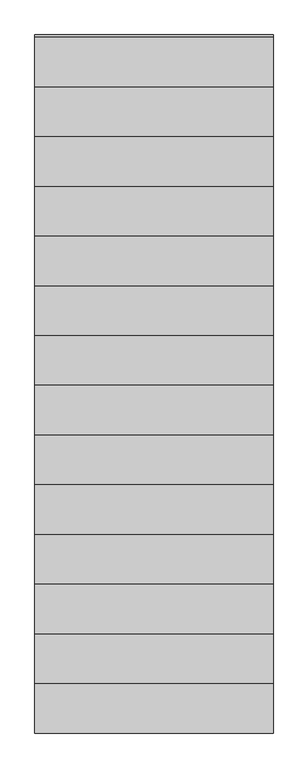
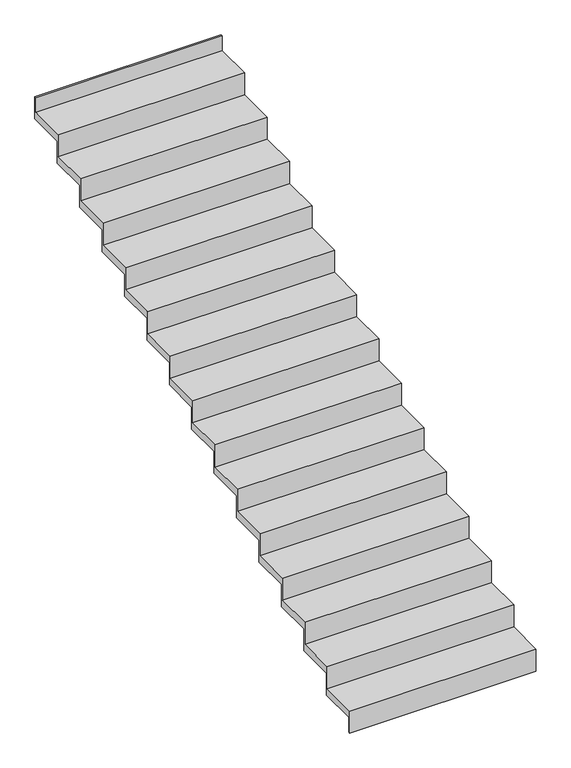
"""IFC4 building model written with IfcOpenShell, lengths in millimetres: stair flight geometry, Run_Stair_Non-Monolithic_50Treadx10Rise_Generic."""

from ifc_helpers import new_model, si_unit, frame, origin, place, context, project, spatial, polyline, outline, extrude, source, transform, mapped, element, save


def stair_flight_633f8e3b(model_context):
    return source(origin(), model_context, "Body", "SweptSolid", [
        extrude(outline(polyline([(-391764.0026386, 100.0), (-391764.0026386, 0.0), (-391774.0026386, 0.0), (-391774.0026386, 150.0), (-391524.0026386, 150.0), (-391524.0026386, 300.0), (-391274.0026386, 300.0), (-391274.0026386, 450.0), (-391024.0026386, 450.0), (-391024.0026386, 600.0), (-390774.0026386, 600.0), (-390774.0026386, 750.0), (-390524.0026386, 750.0), (-390524.0026386, 900.0), (-390274.0026386, 900.0), (-390274.0026386, 1050.0), (-390024.0026386, 1050.0), (-390024.0026386, 1200.0), (-389774.0026386, 1200.0), (-389774.0026386, 1350.0), (-389524.0026386, 1350.0), (-389524.0026386, 1500.0), (-389274.0026386, 1500.0), (-389274.0026386, 1650.0), (-389024.0026386, 1650.0), (-389024.0026386, 1800.0), (-388774.0026386, 1800.0), (-388774.0026386, 1950.0), (-388524.0026386, 1950.0), (-388524.0026386, 2100.0), (-388274.0026386, 2100.0), (-388274.0026386, 2200.0), (-388264.0026386, 2200.0), (-388264.0026386, 2050.0), (-388514.0026386, 2050.0), (-388514.0026386, 1900.0), (-388764.0026386, 1900.0), (-388764.0026386, 1750.0), (-389014.0026386, 1750.0), (-389014.0026386, 1600.0), (-389264.0026386, 1600.0), (-389264.0026386, 1450.0), (-389514.0026386, 1450.0), (-389514.0026386, 1300.0), (-389764.0026386, 1300.0), (-389764.0026386, 1150.0), (-390014.0026386, 1150.0), (-390014.0026386, 1000.0), (-390264.0026386, 1000.0), (-390264.0026386, 850.0), (-390514.0026386, 850.0), (-390514.0026386, 700.0), (-390764.0026386, 700.0), (-390764.0026386, 550.0), (-391014.0026386, 550.0), (-391014.0026386, 400.0), (-391264.0026386, 400.0), (-391264.0026386, 250.0), (-391514.0026386, 250.0), (-391514.0026386, 100.0), (-391764.0026386, 100.0)])), frame((422401.3206883, 0.0, 0.0), z_axis=(1.0, 0.0, 0.0), x_axis=(0.0, 1.0, 0.0)), (0.0, 0.0, 1.0), 1200.0),
    ])


if __name__ == "__main__":
    model = new_model("IFC4")
    model_context = context("Model", 3, world=origin())
    ifc_project = project(units=[si_unit("LENGTHUNIT", "METRE", prefix="MILLI")], contexts=[model_context])
    site = spatial("IfcSite", under=ifc_project)
    building = spatial("IfcBuilding", under=site)
    placement = place(None, origin())
    stair_flight_shape = stair_flight_633f8e3b(model_context)
    element("IfcStairFlight", 1, ObjectType="Run_Stair_Non-Monolithic_50Treadx10Rise_Generic", at=placement, inside=building, context=model_context, shape_type="MappedRepresentation", body=[
        mapped(stair_flight_shape, transform((0.0, 0.0, 0.0), x_axis=(1.0, 0.0, 0.0), y_axis=(0.0, 1.0, 0.0), z_axis=(0.0, 0.0, 1.0))),
    ])
    save(model, "model.ifc")
